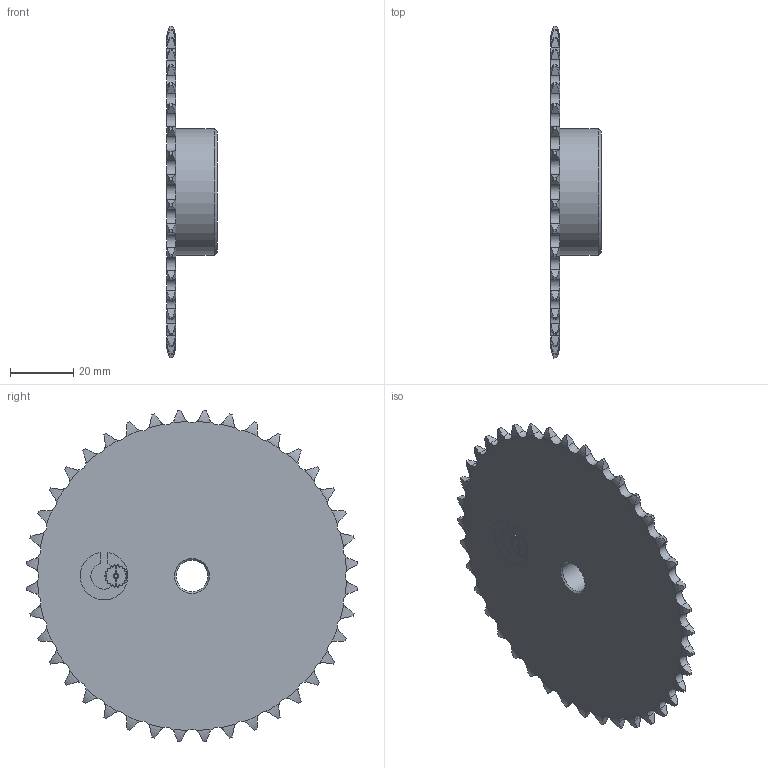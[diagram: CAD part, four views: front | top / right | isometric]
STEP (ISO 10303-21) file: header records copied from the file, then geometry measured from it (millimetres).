
FILE_DESCRIPTION(/* description */ (''),/* implementation_level */ '2;1');
FILE_NAME(/* name */ 'W:\DISEGNI LUCA SALVATAGGIO LOCALE\disegni Fabio Colombo\DISEGNI CATALOGO PIGNONI\PIGNONI ISO606\DIN8187 8x3\DIN8187 8x3 -3D\IPT\10108040.stp',/* time_stamp */ '2022-09-20T12:26:13+02:00',/* author */ ('luca.leone'),/* organization */ (''),/* preprocessor_version */ 'ST-DEVELOPER v19',/* originating_system */ 'Autodesk Inventor 2023',/* authorisation */ '');
FILE_SCHEMA (('AUTOMOTIVE_DESIGN { 1 0 10303 214 3 1 1 }'));
Length unit declared in the file: millimetre
Products named in the file (1): 10108040
Bounding box: 16 x 105.04 x 105.04 mm (x, y, z)
Volume: 37112.9 mm3; surface area: 18795.1 mm2
Topology: 1 solids, 1 shells, 340 faces, 997 edges, 663 vertices
Faces by surface type: cylinder 204, torus 80, plane 53, cone 3
Full cylindrical faces by diameter (mm): 1.251 x1, 10 x1, 40 x1
Entity records: 12267 total; most frequent: CARTESIAN_POINT 3489, ORIENTED_EDGE 1994, DIRECTION 1690, EDGE_CURVE 997, AXIS2_PLACEMENT_3D 672, VERTEX_POINT 663, LINE 346, VECTOR 346
